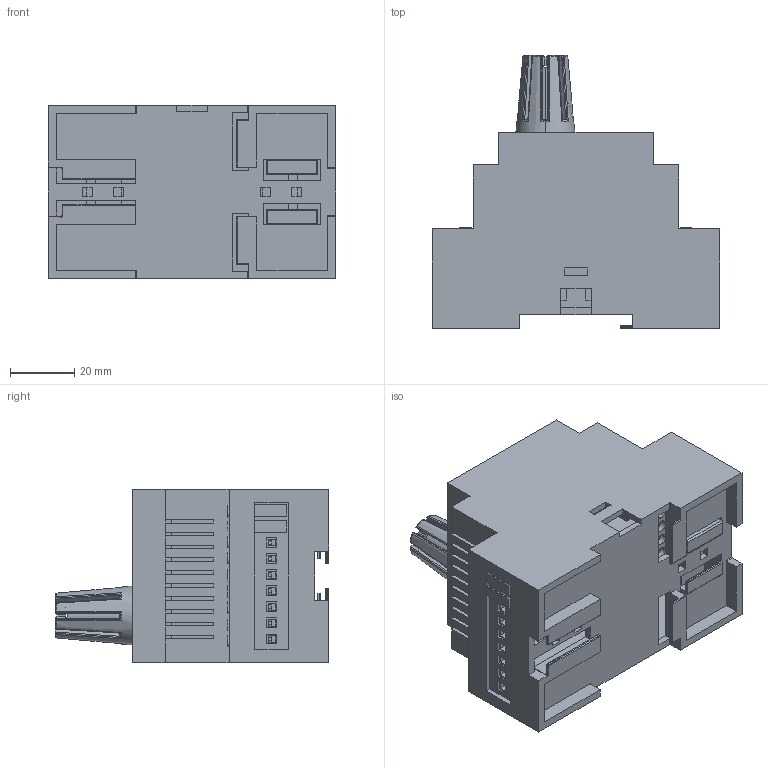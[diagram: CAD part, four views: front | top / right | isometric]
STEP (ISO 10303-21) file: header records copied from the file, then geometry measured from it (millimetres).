
FILE_DESCRIPTION (( 'STEP AP214' ), '1' );
FILE_NAME ('CMA-004-2.STEP', '2026-05-13T08:49:42', ( '' ), ( '' ), 'SwSTEP 2.0', 'SolidWorks 2022', '' );
FILE_SCHEMA (( 'AUTOMOTIVE_DESIGN' ));
Length unit declared in the file: millimetre
Products named in the file (1): CMA-004-2
Bounding box: 89.5 x 85 x 54 mm (x, y, z)
Volume: 49255.6 mm3; surface area: 58739.3 mm2
Topology: 14 solids, 14 shells, 2051 faces, 5593 edges, 3693 vertices
Faces by surface type: plane 1410, bspline 349, cylinder 238, torus 29, sphere 21, cone 4
Entity records: 83258 total; most frequent: CARTESIAN_POINT 31167, ORIENTED_EDGE 11144, DIRECTION 8781, EDGE_CURVE 5572, LINE 4207, VECTOR 4207, VERTEX_POINT 3693, EDGE_LOOP 2343
